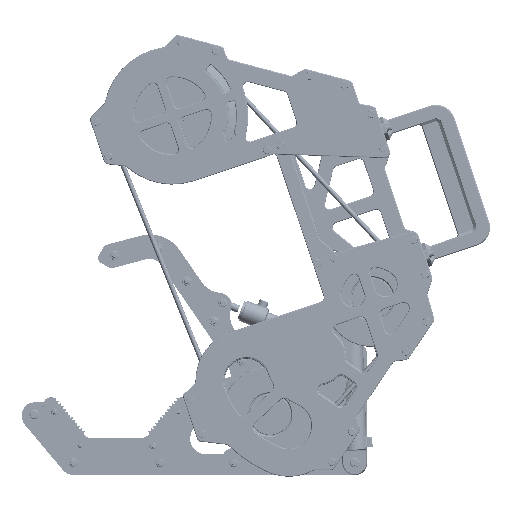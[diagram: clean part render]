
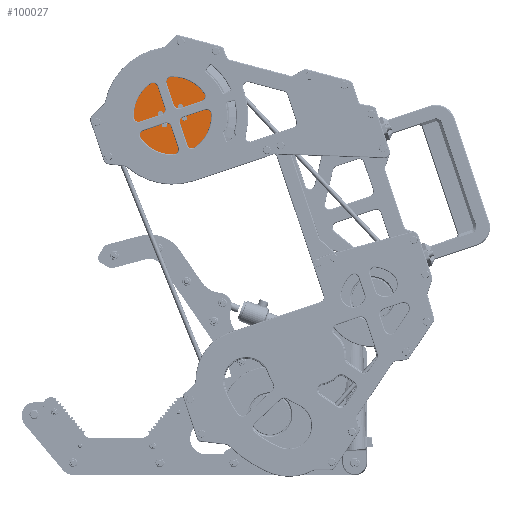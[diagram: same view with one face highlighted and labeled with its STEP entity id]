
A CAD part, front view. The second image highlights one B-rep face of the part: STEP entity #100027.
In plain terms, the highlighted planar face has unit normal (0, -1, 0).
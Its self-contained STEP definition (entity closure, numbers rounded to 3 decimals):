
#3629=FACE_BOUND('',#18459,.T.);
#3630=FACE_BOUND('',#18460,.T.);
#3631=FACE_BOUND('',#18461,.T.);
#3632=FACE_BOUND('',#18462,.T.);
#3633=FACE_BOUND('',#18463,.T.);
#3634=FACE_BOUND('',#18464,.T.);
#3635=FACE_BOUND('',#18465,.T.);
#6484=PLANE('',#111303);
#12143=FACE_OUTER_BOUND('',#18458,.T.);
#18458=EDGE_LOOP('',(#85568,#85569));
#18459=EDGE_LOOP('',(#85570,#85571));
#18460=EDGE_LOOP('',(#85572,#85573));
#18461=EDGE_LOOP('',(#85574,#85575));
#18462=EDGE_LOOP('',(#85576,#85577));
#18463=EDGE_LOOP('',(#85578,#85579));
#18464=EDGE_LOOP('',(#85580,#85581));
#18465=EDGE_LOOP('',(#85582,#85583));
#24608=CIRCLE('',#111281,108.883);
#24609=CIRCLE('',#111282,108.883);
#24624=CIRCLE('',#111304,5.425);
#24625=CIRCLE('',#111305,5.425);
#24626=CIRCLE('',#111306,5.425);
#24627=CIRCLE('',#111307,5.425);
#24628=CIRCLE('',#111308,5.425);
#24629=CIRCLE('',#111309,5.425);
#24630=CIRCLE('',#111310,5.425);
#24631=CIRCLE('',#111311,5.425);
#24632=CIRCLE('',#111312,5.425);
#24633=CIRCLE('',#111313,5.425);
#24634=CIRCLE('',#111314,8.3);
#24635=CIRCLE('',#111315,8.3);
#24636=CIRCLE('',#111316,5.425);
#24637=CIRCLE('',#111317,5.425);
#44908=VERTEX_POINT('',#182059);
#44909=VERTEX_POINT('',#182061);
#44923=VERTEX_POINT('',#182102);
#44924=VERTEX_POINT('',#182103);
#44925=VERTEX_POINT('',#182106);
#44926=VERTEX_POINT('',#182107);
#44927=VERTEX_POINT('',#182110);
#44928=VERTEX_POINT('',#182111);
#44929=VERTEX_POINT('',#182114);
#44930=VERTEX_POINT('',#182115);
#44931=VERTEX_POINT('',#182118);
#44932=VERTEX_POINT('',#182119);
#44933=VERTEX_POINT('',#182122);
#44934=VERTEX_POINT('',#182123);
#44935=VERTEX_POINT('',#182126);
#44936=VERTEX_POINT('',#182127);
#58522=EDGE_CURVE('',#44908,#44909,#24608,.T.);
#58523=EDGE_CURVE('',#44909,#44908,#24609,.T.);
#58542=EDGE_CURVE('',#44923,#44924,#24624,.T.);
#58543=EDGE_CURVE('',#44924,#44923,#24625,.T.);
#58544=EDGE_CURVE('',#44925,#44926,#24626,.T.);
#58545=EDGE_CURVE('',#44926,#44925,#24627,.T.);
#58546=EDGE_CURVE('',#44927,#44928,#24628,.T.);
#58547=EDGE_CURVE('',#44928,#44927,#24629,.T.);
#58548=EDGE_CURVE('',#44929,#44930,#24630,.T.);
#58549=EDGE_CURVE('',#44930,#44929,#24631,.T.);
#58550=EDGE_CURVE('',#44931,#44932,#24632,.T.);
#58551=EDGE_CURVE('',#44932,#44931,#24633,.T.);
#58552=EDGE_CURVE('',#44933,#44934,#24634,.T.);
#58553=EDGE_CURVE('',#44934,#44933,#24635,.T.);
#58554=EDGE_CURVE('',#44935,#44936,#24636,.T.);
#58555=EDGE_CURVE('',#44936,#44935,#24637,.T.);
#85568=ORIENTED_EDGE('',*,*,#58523,.F.);
#85569=ORIENTED_EDGE('',*,*,#58522,.F.);
#85570=ORIENTED_EDGE('',*,*,#58542,.T.);
#85571=ORIENTED_EDGE('',*,*,#58543,.T.);
#85572=ORIENTED_EDGE('',*,*,#58544,.T.);
#85573=ORIENTED_EDGE('',*,*,#58545,.T.);
#85574=ORIENTED_EDGE('',*,*,#58546,.T.);
#85575=ORIENTED_EDGE('',*,*,#58547,.T.);
#85576=ORIENTED_EDGE('',*,*,#58548,.T.);
#85577=ORIENTED_EDGE('',*,*,#58549,.T.);
#85578=ORIENTED_EDGE('',*,*,#58550,.T.);
#85579=ORIENTED_EDGE('',*,*,#58551,.T.);
#85580=ORIENTED_EDGE('',*,*,#58552,.T.);
#85581=ORIENTED_EDGE('',*,*,#58553,.T.);
#85582=ORIENTED_EDGE('',*,*,#58554,.T.);
#85583=ORIENTED_EDGE('',*,*,#58555,.T.);
#100027=ADVANCED_FACE('',(#12143,#3629,#3630,#3631,#3632,#3633,#3634,#3635),
#6484,.T.);
#111281=AXIS2_PLACEMENT_3D('',#182062,#139129,#139130);
#111282=AXIS2_PLACEMENT_3D('',#182063,#139131,#139132);
#111303=AXIS2_PLACEMENT_3D('',#182101,#139177,#139178);
#111304=AXIS2_PLACEMENT_3D('',#182104,#139179,#139180);
#111305=AXIS2_PLACEMENT_3D('',#182105,#139181,#139182);
#111306=AXIS2_PLACEMENT_3D('',#182108,#139183,#139184);
#111307=AXIS2_PLACEMENT_3D('',#182109,#139185,#139186);
#111308=AXIS2_PLACEMENT_3D('',#182112,#139187,#139188);
#111309=AXIS2_PLACEMENT_3D('',#182113,#139189,#139190);
#111310=AXIS2_PLACEMENT_3D('',#182116,#139191,#139192);
#111311=AXIS2_PLACEMENT_3D('',#182117,#139193,#139194);
#111312=AXIS2_PLACEMENT_3D('',#182120,#139195,#139196);
#111313=AXIS2_PLACEMENT_3D('',#182121,#139197,#139198);
#111314=AXIS2_PLACEMENT_3D('',#182124,#139199,#139200);
#111315=AXIS2_PLACEMENT_3D('',#182125,#139201,#139202);
#111316=AXIS2_PLACEMENT_3D('',#182128,#139203,#139204);
#111317=AXIS2_PLACEMENT_3D('',#182129,#139205,#139206);
#139129=DIRECTION('center_axis',(0.,1.,0.));
#139130=DIRECTION('ref_axis',(0.98,0.,-0.198));
#139131=DIRECTION('center_axis',(0.,1.,0.));
#139132=DIRECTION('ref_axis',(0.98,0.,-0.198));
#139177=DIRECTION('center_axis',(0.,-1.,0.));
#139178=DIRECTION('ref_axis',(-0.198,0.,-0.98));
#139179=DIRECTION('center_axis',(0.,1.,0.));
#139180=DIRECTION('ref_axis',(-0.183,0.,0.983));
#139181=DIRECTION('center_axis',(0.,1.,0.));
#139182=DIRECTION('ref_axis',(-0.183,0.,0.983));
#139183=DIRECTION('center_axis',(0.,1.,0.));
#139184=DIRECTION('ref_axis',(-0.943,0.,0.333));
#139185=DIRECTION('center_axis',(0.,1.,0.));
#139186=DIRECTION('ref_axis',(-0.943,0.,0.333));
#139187=DIRECTION('center_axis',(0.,1.,0.));
#139188=DIRECTION('ref_axis',(-0.76,0.,
-0.65));
#139189=DIRECTION('center_axis',(0.,1.,0.));
#139190=DIRECTION('ref_axis',(-0.76,0.,
-0.65));
#139191=DIRECTION('center_axis',(0.,1.,0.));
#139192=DIRECTION('ref_axis',(0.183,0.,-0.983));
#139193=DIRECTION('center_axis',(0.,1.,0.));
#139194=DIRECTION('ref_axis',(0.183,0.,-0.983));
#139195=DIRECTION('center_axis',(0.,1.,0.));
#139196=DIRECTION('ref_axis',(0.943,0.,-0.333));
#139197=DIRECTION('center_axis',(0.,1.,0.));
#139198=DIRECTION('ref_axis',(0.943,0.,-0.333));
#139199=DIRECTION('center_axis',(0.,1.,0.));
#139200=DIRECTION('ref_axis',(-0.318,0.,
0.948));
#139201=DIRECTION('center_axis',(0.,1.,0.));
#139202=DIRECTION('ref_axis',(-0.318,0.,
0.948));
#139203=DIRECTION('center_axis',(0.,1.,0.));
#139204=DIRECTION('ref_axis',(0.76,0.,0.65));
#139205=DIRECTION('center_axis',(0.,1.,0.));
#139206=DIRECTION('ref_axis',(0.76,0.,0.65));
#182059=CARTESIAN_POINT('',(9.174,-212.99,543.999));
#182061=CARTESIAN_POINT('',(222.615,-212.99,500.816));
#182062=CARTESIAN_POINT('Origin',(115.894,-212.99,522.407));
#182063=CARTESIAN_POINT('Origin',(115.894,-212.99,522.407));
#182101=CARTESIAN_POINT('Origin',(169.255,-212.99,511.612));
#182102=CARTESIAN_POINT('',(93.948,-212.99,503.158));
#182103=CARTESIAN_POINT('',(100.342,-212.99,498.332));
#182104=CARTESIAN_POINT('Origin',(99.349,-212.99,503.665));
#182105=CARTESIAN_POINT('Origin',(99.349,-212.99,503.665));
#182106=CARTESIAN_POINT('',(121.592,-212.99,493.777));
#182107=CARTESIAN_POINT('',(128.968,-212.99,496.9));
#182108=CARTESIAN_POINT('Origin',(123.853,-212.99,498.708));
#182109=CARTESIAN_POINT('Origin',(123.853,-212.99,498.708));
#182110=CARTESIAN_POINT('',(143.538,-212.99,513.026));
#182111=CARTESIAN_POINT('',(144.521,-212.99,520.976));
#182112=CARTESIAN_POINT('Origin',(140.398,-212.99,517.45));
#182113=CARTESIAN_POINT('Origin',(140.398,-212.99,517.45));
#182114=CARTESIAN_POINT('',(137.841,-212.99,541.657));
#182115=CARTESIAN_POINT('',(131.447,-212.99,546.483));
#182116=CARTESIAN_POINT('Origin',(132.44,-212.99,541.149));
#182117=CARTESIAN_POINT('Origin',(132.44,-212.99,541.149));
#182118=CARTESIAN_POINT('',(110.197,-212.99,551.038));
#182119=CARTESIAN_POINT('',(102.821,-212.99,547.914));
#182120=CARTESIAN_POINT('Origin',(107.936,-212.99,546.107));
#182121=CARTESIAN_POINT('Origin',(107.936,-212.99,546.107));
#182122=CARTESIAN_POINT('',(113.252,-212.99,530.276));
#182123=CARTESIAN_POINT('',(118.537,-212.99,514.539));
#182124=CARTESIAN_POINT('Origin',(115.894,-212.99,522.407));
#182125=CARTESIAN_POINT('Origin',(115.894,-212.99,522.407));
#182126=CARTESIAN_POINT('',(88.251,-212.99,531.789));
#182127=CARTESIAN_POINT('',(87.268,-212.99,523.839));
#182128=CARTESIAN_POINT('Origin',(91.391,-212.99,527.365));
#182129=CARTESIAN_POINT('Origin',(91.391,-212.99,527.365));
